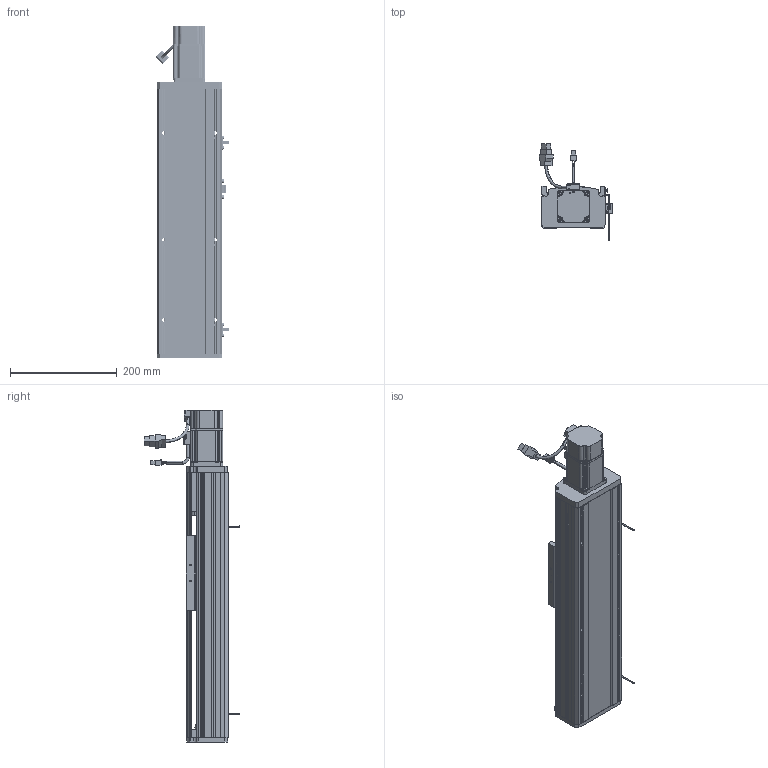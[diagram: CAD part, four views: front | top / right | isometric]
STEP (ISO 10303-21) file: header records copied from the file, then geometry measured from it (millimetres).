
FILE_DESCRIPTION (( 'STEP AP214' ), '1' );
FILE_NAME ('CTH120-250.STEP', '2019-11-20T02:35:43', ( '微软用户' ), ( '微软中国' ), 'SwSTEP 2.0', 'SolidWorks 2017', '' );
FILE_SCHEMA (( 'AUTOMOTIVE_DESIGN' ));
Length unit declared in the file: millimetre
Products named in the file (33): M4-L10囀鞠褒蹟佪; M4-L22囀鞠褒蹟佪; 7001-DB; 7001; 噩砃EGH15-CA; 粣創揤啣; M3-L8囀鞠褒蹟佪; COL12B-粣遠; CT12耀郪-覜茼んえ; 坶踡蹟譫; EE-SX672-BR; 120耀郪-粣創釱; M4-L6半圆头内六角螺丝; 120耀郪-傷啣; M5-L20囀鞠褒蹟佪; 120模组-盖子_默认<按加工>; M5-L12囀鞠褒蹟佪; 120耀郪-侜督儂啣; 怢湛200W侜督萇儂ECMA-CX0602ES; SFH1605; 盓傅釱蚾饜极; 136蹟簽蟀諉輸; 6000; 120模组-移动座_默认<按加工>; 120耀郪-盓傅釱; SFH1605-450; M4-L16囀鞠褒蹟佪; 120模组-底座_默认<按加工>; EGH15-CA; EGH15_RAIL; CTH120-250; 珨极宒粣創釱; 遣喳蝶15x12x8
Assembly tree (90 placements, depth 4):
  CTH120-250
    120模组-底座_默认<按加工>
    SFH1605-450
    120模组-移动座_默认<按加工>
    136蹟簽蟀諉輸
    SFH1605
    120耀郪-侜督儂啣
    120模组-盖子_默认<按加工>
    120耀郪-傷啣
    珨极宒粣創釱
      120耀郪-粣創釱
      坶踡蹟譫
      COL12B-粣遠  x2
      粣創揤啣
      7001-DB
        7001  x2
      M4-L22囀鞠褒蹟佪  x6
      M4-L10囀鞠褒蹟佪  x4
      遣喳蝶15x12x8
    EGH15_RAIL  x2
    EGH15-CA  x2
    M4-L16囀鞠褒蹟佪  x8
    M4-L10囀鞠褒蹟佪  x22
    盓傅釱蚾饜极
      120耀郪-盓傅釱
      6000
      遣喳蝶15x12x8  x2
      M4-L22囀鞠褒蹟佪  x2
    怢湛200W侜督萇儂ECMA-CX0602ES
    M5-L12囀鞠褒蹟佪  x3
    M5-L20囀鞠褒蹟佪  x4
    M4-L6半圆头内六角螺丝  x4
    EE-SX672-BR  x2
    CT12耀郪-覜茼んえ
    M3-L8囀鞠褒蹟佪  x4
    噩砃EGH15-CA  x2
Bounding box: 137.94 x 179.67 x 622 mm (x, y, z)
Volume: 2671335.5 mm3; surface area: 791751.9 mm2
Topology: 87 solids, 96 shells, 5054 faces, 13243 edges, 8457 vertices
Faces by surface type: plane 2773, cylinder 1428, cone 519, bspline 241, torus 81, sphere 12
Entity records: 104292 total; most frequent: CARTESIAN_POINT 30384, ORIENTED_EDGE 15440, DIRECTION 14113, EDGE_CURVE 7720, VERTEX_POINT 5063, AXIS2_PLACEMENT_3D 4769, VECTOR 4575, LINE 4575
